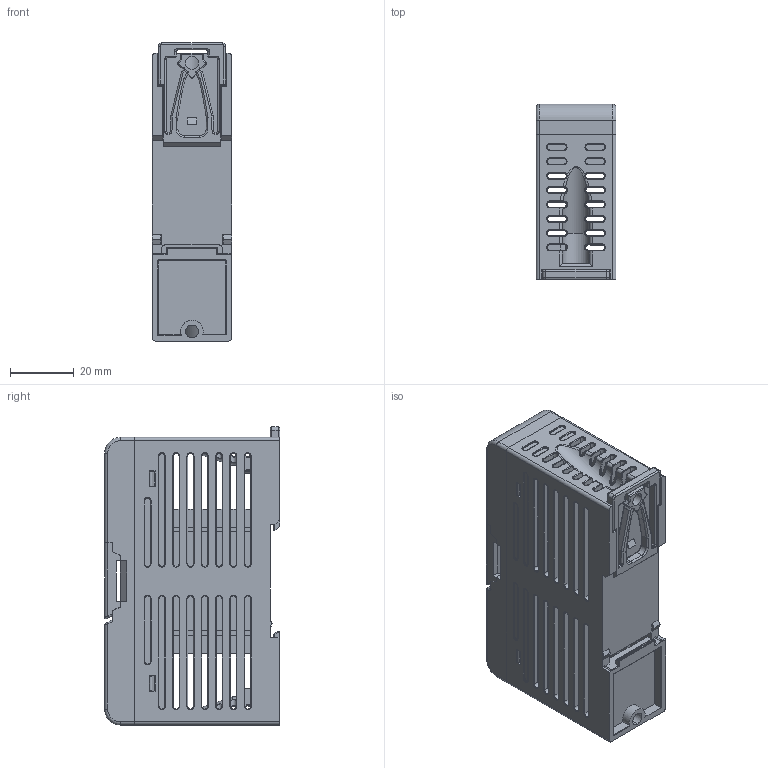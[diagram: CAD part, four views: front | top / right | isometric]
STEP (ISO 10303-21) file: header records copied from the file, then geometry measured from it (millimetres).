
FILE_DESCRIPTION((''),'2;1');
FILE_NAME('B1-CM_ASM','2021-06-09T',('Jacky Chang'),('ME Department of NTUST'),'PRO/ENGINEER BY PARAMETRIC TECHNOLOGY CORPORATION, 2014200','PRO/ENGINEER BY PARAMETRIC TECHNOLOGY CORPORATION, 2014200','');
FILE_SCHEMA(('CONFIG_CONTROL_DESIGN','GEOMETRIC_VALIDATION_PROPERTIES_MIM'));
Products named in the file (8): B1-AD_UP_COVER; B1-AD_IO_COVER; DINKLE_ECH350R-05P; CONNECTOR-10P; B1-CM_DOWN_COVER; JOIN; B1-CM_DOWN_COVER_ASM; B1-CM_ASM
Assembly tree (8 placements, depth 3):
  B1-CM_ASM
    B1-AD_UP_COVER
    B1-AD_IO_COVER
    DINKLE_ECH350R-05P  x2
    CONNECTOR-10P
    B1-CM_DOWN_COVER_ASM
      B1-CM_DOWN_COVER
      JOIN
Bounding box: 25 x 54.9 x 93.25 mm (x, y, z)
Volume: 29183.6 mm3; surface area: 42046.4 mm2
Topology: 7 solids, 7 shells, 2396 faces, 6524 edges, 4108 vertices
Faces by surface type: plane 1405, cylinder 658, torus 194, bspline 96, sphere 23, cone 20
Entity records: 81302 total; most frequent: CARTESIAN_POINT 19122, ORIENTED_EDGE 10566, DIRECTION 9859, EDGE_CURVE 5283, PRESENTATION_STYLE_ASSIGNMENT 4107, STYLED_ITEM 4056, CURVE_STYLE 4051, VECTOR 3529
